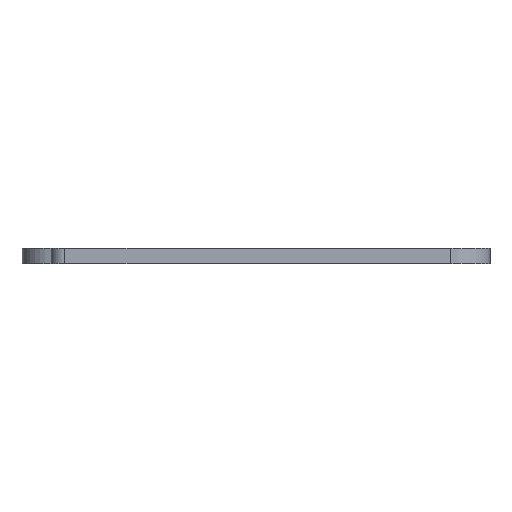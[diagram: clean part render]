
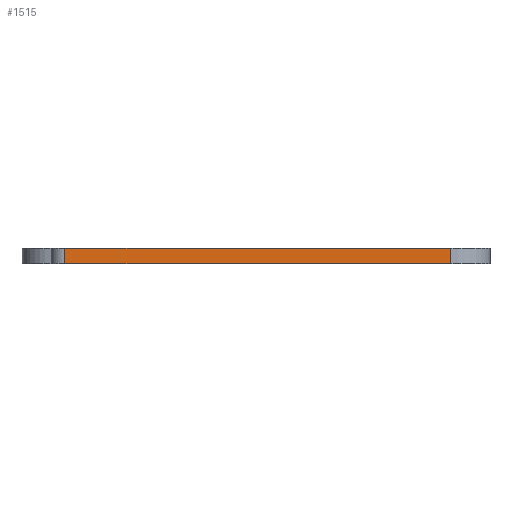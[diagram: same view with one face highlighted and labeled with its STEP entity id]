
A CAD part, left-side view. The second image highlights one B-rep face of the part: STEP entity #1515.
In plain terms, the highlighted planar face has unit normal (-1, 0, 0).
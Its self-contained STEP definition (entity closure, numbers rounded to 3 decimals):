
#2 = EDGE_CURVE ( 'NONE', #517, #674, #1668, .T. ) ;
#34 = VECTOR ( 'NONE', #1007, 1000. ) ;
#71 = VERTEX_POINT ( 'NONE', #632 ) ;
#82 = LINE ( 'NONE', #791, #34 ) ;
#123 = EDGE_CURVE ( 'NONE', #1504, #517, #489, .T. ) ;
#135 = DIRECTION ( 'NONE',  ( 1., 0., 0. ) ) ;
#347 = ORIENTED_EDGE ( 'NONE', *, *, #988, .F. ) ;
#366 = DIRECTION ( 'NONE',  ( 0., -1., 0. ) ) ;
#489 = LINE ( 'NONE', #1054, #746 ) ;
#517 = VERTEX_POINT ( 'NONE', #711 ) ;
#572 = PLANE ( 'NONE',  #941 ) ;
#632 = CARTESIAN_POINT ( 'NONE',  ( -15., -100., 4. ) ) ;
#639 = CARTESIAN_POINT ( 'NONE',  ( -15., -1.5, 0. ) ) ;
#674 = VERTEX_POINT ( 'NONE', #1672 ) ;
#711 = CARTESIAN_POINT ( 'NONE',  ( -15., -1.5, 0. ) ) ;
#727 = CARTESIAN_POINT ( 'NONE',  ( -15., -1.5, 4. ) ) ;
#746 = VECTOR ( 'NONE', #751, 1000. ) ;
#751 = DIRECTION ( 'NONE',  ( 0., 0., -1. ) ) ;
#791 = CARTESIAN_POINT ( 'NONE',  ( -15., -100., 4. ) ) ;
#937 = DIRECTION ( 'NONE',  ( 0., -1., 0. ) ) ;
#941 = AXIS2_PLACEMENT_3D ( 'NONE', #727, #135, #1313 ) ;
#988 = EDGE_CURVE ( 'NONE', #1504, #71, #1142, .T. ) ;
#1007 = DIRECTION ( 'NONE',  ( 0., 0., -1. ) ) ;
#1054 = CARTESIAN_POINT ( 'NONE',  ( -15., -1.5, 4. ) ) ;
#1125 = FACE_OUTER_BOUND ( 'NONE', #1221, .T. ) ;
#1142 = LINE ( 'NONE', #1795, #1828 ) ;
#1155 = VECTOR ( 'NONE', #937, 1000. ) ;
#1163 = ORIENTED_EDGE ( 'NONE', *, *, #2, .T. ) ;
#1221 = EDGE_LOOP ( 'NONE', ( #1163, #1670, #347, #1615 ) ) ;
#1313 = DIRECTION ( 'NONE',  ( 0., 0., -1. ) ) ;
#1504 = VERTEX_POINT ( 'NONE', #1704 ) ;
#1515 = ADVANCED_FACE ( 'NONE', ( #1125 ), #572, .F. ) ;
#1615 = ORIENTED_EDGE ( 'NONE', *, *, #123, .T. ) ;
#1668 = LINE ( 'NONE', #639, #1155 ) ;
#1670 = ORIENTED_EDGE ( 'NONE', *, *, #1784, .F. ) ;
#1672 = CARTESIAN_POINT ( 'NONE',  ( -15., -100., 0. ) ) ;
#1704 = CARTESIAN_POINT ( 'NONE',  ( -15., -1.5, 4. ) ) ;
#1784 = EDGE_CURVE ( 'NONE', #71, #674, #82, .T. ) ;
#1795 = CARTESIAN_POINT ( 'NONE',  ( -15., -1.5, 4. ) ) ;
#1828 = VECTOR ( 'NONE', #366, 1000. ) ;
